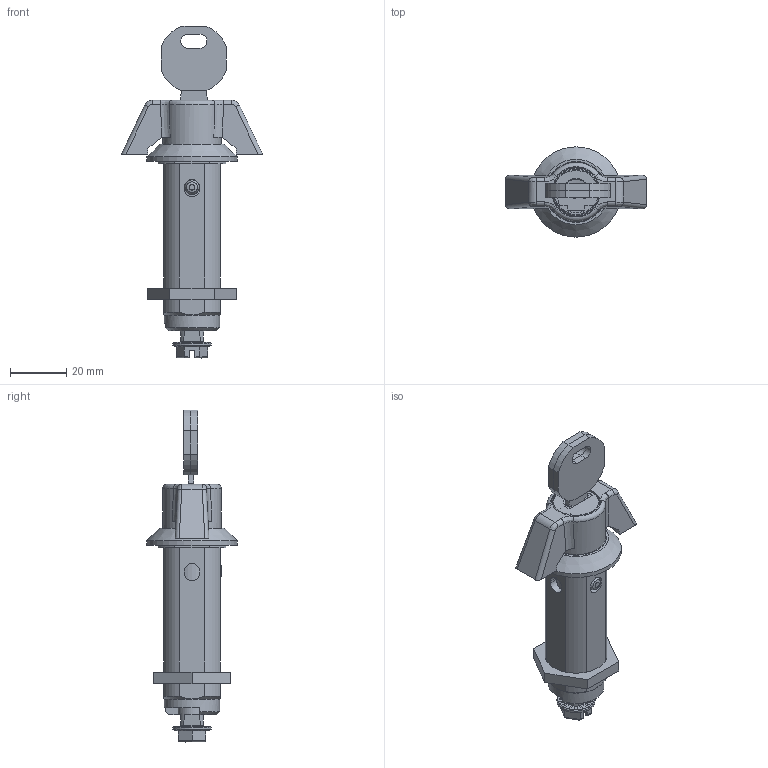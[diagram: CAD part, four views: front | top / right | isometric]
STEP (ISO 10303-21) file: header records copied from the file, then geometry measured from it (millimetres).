
FILE_DESCRIPTION((''),'2;1');
FILE_NAME('C:\Documents and Settings\Administrator\My Documents\Andys Backup Data\ANDY''S INVENTOR\INVENTOR LIBRARIES\MINITEC INVENTOR LIBRARIES\HANDLES LOCKS STOPS\A PACKED FILES\STEP FILES\21.1015_1 T-HANDLE 45.stp','2010-06-25T13:41:25',('Administrator'),(''),'Autodesk Inventor 2009','Autodesk Inventor 2009','');
FILE_SCHEMA(('AUTOMOTIVE_DESIGN { 1 0 10303 214 1 1 1 1 }'));
Length unit declared in the file: millimetre
Products named in the file (19): 21.1015_1 T-HANDLE 45; 1000-B01_ASM; 1000-218; 1044-03-01; 1005-12; 1108-U9_ASM; 1108-09-01; 1108-U35_ASM; 1108-14-333_PRT; 1108-15-01_PRT; 1108-27; 1108-24; 1108-25; 1000-367; DIN3771_16X2_5; 1000-366; 1000-23; 1000-02; 1000-277-21
Assembly tree (23 placements, depth 5):
  21.1015_1 T-HANDLE 45
    1000-B01_ASM
      1000-218
      1044-03-01
      1005-12
      1108-U9_ASM
        1108-09-01
        1108-U35_ASM
          1108-14-333_PRT
          1108-15-01_PRT  x2
        1108-27
        1108-24
        1108-25  x5
    1000-367
    DIN3771_16X2_5
    1000-366
    1000-23
    1000-02
    1000-277-21
Bounding box: 50 x 32 x 117.55 mm (x, y, z)
Volume: 35710.8 mm3; surface area: 28604.2 mm2
Topology: 20 solids, 20 shells, 791 faces, 2113 edges, 1372 vertices
Faces by surface type: plane 503, cylinder 209, bspline 38, torus 23, cone 14, sphere 4
Full cylindrical faces by diameter (mm): 1.8 x1, 2.1 x1, 3 x2, 4.95 x1, 5 x2, 5.1 x2, 5.5 x1, 5.6 x1, 6.2 x1, 8.4 x1, 8.65 x1, 9.3 x1, 9.9 x1, 10 x1, 11.8 x1, 12 x3, 12.05 x1, 12.8 x1, 13.5 x1, 14.8 x2, 15 x1, 16.1 x1, 16.7 x1, 16.8 x1, 17.2 x1, 19.6 x1, 20.8 x1, 21.5 x1, 22 x1, 32 x1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
Entity records: 28970 total; most frequent: CARTESIAN_POINT 9882, ORIENTED_EDGE 3718, DIRECTION 3648, EDGE_CURVE 1859, AXIS2_PLACEMENT_3D 1239, VERTEX_POINT 1231, VECTOR 1170, LINE 1170
